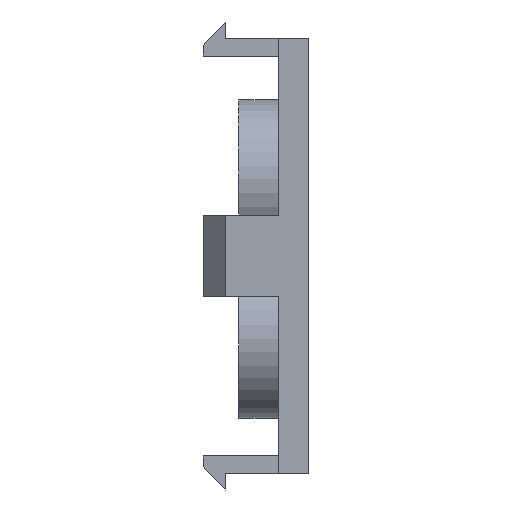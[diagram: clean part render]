
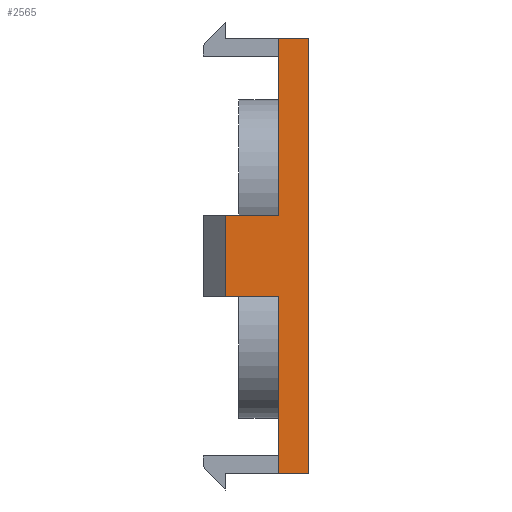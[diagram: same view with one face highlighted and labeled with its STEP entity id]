
A CAD part, left-side view. The second image highlights one B-rep face of the part: STEP entity #2565.
In plain terms, the highlighted planar face has unit normal (-1, 0, 0).
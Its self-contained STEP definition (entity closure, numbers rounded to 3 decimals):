
#5 = ORIENTED_EDGE ( 'NONE', *, *, #2204, .T. ) ;
#53 = DIRECTION ( 'NONE',  ( 0., -1., 0. ) ) ;
#74 = LINE ( 'NONE', #2587, #540 ) ;
#94 = CARTESIAN_POINT ( 'NONE',  ( -24.71, 2.05, 14.7 ) ) ;
#224 = DIRECTION ( 'NONE',  ( 0., 0., -1. ) ) ;
#292 = LINE ( 'NONE', #1059, #2319 ) ;
#335 = VECTOR ( 'NONE', #1675, 1000. ) ;
#343 = LINE ( 'NONE', #2317, #2308 ) ;
#344 = DIRECTION ( 'NONE',  ( 0., 0., 1. ) ) ;
#500 = CARTESIAN_POINT ( 'NONE',  ( -24.71, 2.05, -14.7 ) ) ;
#540 = VECTOR ( 'NONE', #1773, 1000. ) ;
#564 = CARTESIAN_POINT ( 'NONE',  ( -24.71, 0., -14.7 ) ) ;
#568 = VERTEX_POINT ( 'NONE', #1257 ) ;
#586 = VERTEX_POINT ( 'NONE', #2512 ) ;
#645 = CARTESIAN_POINT ( 'NONE',  ( -24.71, 2.05, -14.7 ) ) ;
#663 = VECTOR ( 'NONE', #344, 1000. ) ;
#689 = PLANE ( 'NONE',  #1092 ) ;
#718 = EDGE_CURVE ( 'NONE', #568, #2578, #343, .T. ) ;
#723 = VERTEX_POINT ( 'NONE', #500 ) ;
#782 = VECTOR ( 'NONE', #2257, 1000. ) ;
#788 = ORIENTED_EDGE ( 'NONE', *, *, #1834, .F. ) ;
#825 = CARTESIAN_POINT ( 'NONE',  ( -24.71, 2.05, -14.7 ) ) ;
#849 = LINE ( 'NONE', #1553, #2395 ) ;
#925 = DIRECTION ( 'NONE',  ( 0., 0., 1. ) ) ;
#930 = ORIENTED_EDGE ( 'NONE', *, *, #2543, .F. ) ;
#1020 = CARTESIAN_POINT ( 'NONE',  ( -24.71, 5.65, -2.75 ) ) ;
#1059 = CARTESIAN_POINT ( 'NONE',  ( -24.71, 2.05, 14.7 ) ) ;
#1092 = AXIS2_PLACEMENT_3D ( 'NONE', #2104, #2296, #1099 ) ;
#1099 = DIRECTION ( 'NONE',  ( 0., 0., -1. ) ) ;
#1228 = VERTEX_POINT ( 'NONE', #2588 ) ;
#1257 = CARTESIAN_POINT ( 'NONE',  ( -24.71, 2.05, 2.75 ) ) ;
#1287 = CARTESIAN_POINT ( 'NONE',  ( -24.71, 0., -14.7 ) ) ;
#1305 = ORIENTED_EDGE ( 'NONE', *, *, #1495, .T. ) ;
#1308 = LINE ( 'NONE', #645, #782 ) ;
#1409 = LINE ( 'NONE', #1475, #335 ) ;
#1415 = VECTOR ( 'NONE', #2234, 1000. ) ;
#1475 = CARTESIAN_POINT ( 'NONE',  ( -24.71, 7.15, 2.75 ) ) ;
#1495 = EDGE_CURVE ( 'NONE', #1228, #1784, #849, .T. ) ;
#1507 = EDGE_CURVE ( 'NONE', #723, #2574, #1308, .T. ) ;
#1514 = EDGE_CURVE ( 'NONE', #2578, #586, #292, .T. ) ;
#1553 = CARTESIAN_POINT ( 'NONE',  ( -24.71, 5.65, 2.75 ) ) ;
#1675 = DIRECTION ( 'NONE',  ( 0., -1., 0. ) ) ;
#1727 = LINE ( 'NONE', #564, #663 ) ;
#1773 = DIRECTION ( 'NONE',  ( 0., -1., 0. ) ) ;
#1784 = VERTEX_POINT ( 'NONE', #1020 ) ;
#1834 = EDGE_CURVE ( 'NONE', #723, #2348, #2094, .T. ) ;
#1879 = ORIENTED_EDGE ( 'NONE', *, *, #2176, .T. ) ;
#2089 = ORIENTED_EDGE ( 'NONE', *, *, #1514, .F. ) ;
#2094 = LINE ( 'NONE', #825, #1415 ) ;
#2104 = CARTESIAN_POINT ( 'NONE',  ( -24.71, 2.05, -14.7 ) ) ;
#2176 = EDGE_CURVE ( 'NONE', #2574, #586, #1727, .T. ) ;
#2204 = EDGE_CURVE ( 'NONE', #1784, #2348, #74, .T. ) ;
#2209 = ORIENTED_EDGE ( 'NONE', *, *, #1507, .T. ) ;
#2212 = EDGE_LOOP ( 'NONE', ( #930, #1305, #5, #788, #2209, #1879, #2089, #2222 ) ) ;
#2222 = ORIENTED_EDGE ( 'NONE', *, *, #718, .F. ) ;
#2234 = DIRECTION ( 'NONE',  ( 0., 0., 1. ) ) ;
#2257 = DIRECTION ( 'NONE',  ( 0., -1., 0. ) ) ;
#2296 = DIRECTION ( 'NONE',  ( 1., 0., 0. ) ) ;
#2308 = VECTOR ( 'NONE', #925, 1000. ) ;
#2317 = CARTESIAN_POINT ( 'NONE',  ( -24.71, 2.05, -14.7 ) ) ;
#2319 = VECTOR ( 'NONE', #53, 1000. ) ;
#2348 = VERTEX_POINT ( 'NONE', #2418 ) ;
#2372 = FACE_OUTER_BOUND ( 'NONE', #2212, .T. ) ;
#2395 = VECTOR ( 'NONE', #224, 1000. ) ;
#2418 = CARTESIAN_POINT ( 'NONE',  ( -24.71, 2.05, -2.75 ) ) ;
#2512 = CARTESIAN_POINT ( 'NONE',  ( -24.71, 0., 14.7 ) ) ;
#2543 = EDGE_CURVE ( 'NONE', #1228, #568, #1409, .T. ) ;
#2565 = ADVANCED_FACE ( 'NONE', ( #2372 ), #689, .F. ) ;
#2574 = VERTEX_POINT ( 'NONE', #1287 ) ;
#2578 = VERTEX_POINT ( 'NONE', #94 ) ;
#2587 = CARTESIAN_POINT ( 'NONE',  ( -24.71, 7.15, -2.75 ) ) ;
#2588 = CARTESIAN_POINT ( 'NONE',  ( -24.71, 5.65, 2.75 ) ) ;
